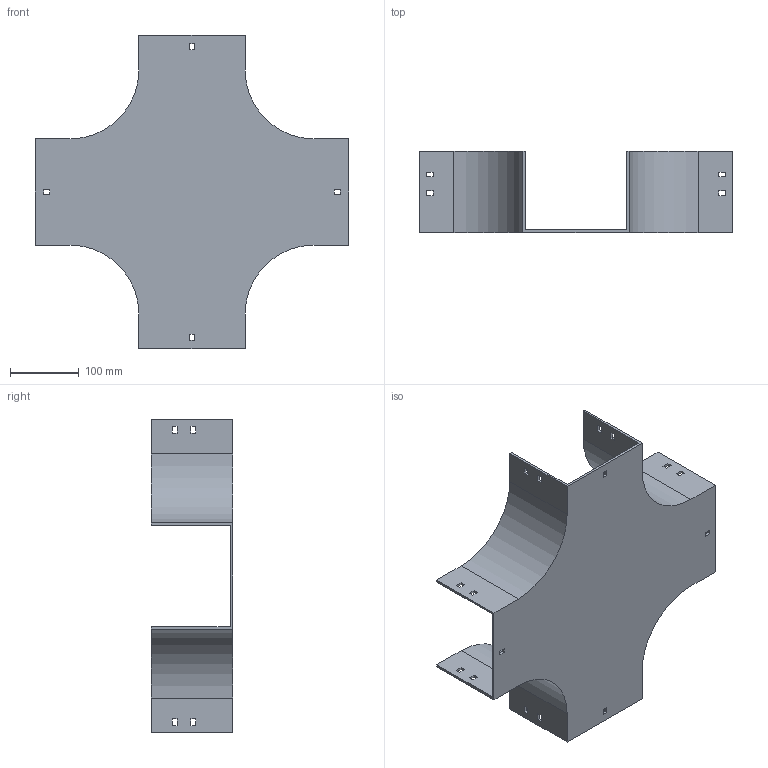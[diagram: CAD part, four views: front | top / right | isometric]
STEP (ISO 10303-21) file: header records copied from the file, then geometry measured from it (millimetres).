
FILE_DESCRIPTION (( 'STEP AP214' ), '1' );
FILE_NAME ('17B1J150.step', '2025-02-21T09:56:34', ( '' ), ( '' ), 'SwSTEP 2.0', 'SolidWorks 2023', '' );
FILE_SCHEMA (( 'AUTOMOTIVE_DESIGN' ));
Length unit declared in the file: millimetre
Products named in the file (1): 17B1J150
Bounding box: 454 x 117.5 x 454 mm (x, y, z)
Volume: 846397.6 mm3; surface area: 494940.9 mm2
Topology: 1 solids, 1 shells, 114 faces, 336 edges, 224 vertices
Faces by surface type: plane 106, cylinder 8
Entity records: 3839 total; most frequent: CARTESIAN_POINT 675, ORIENTED_EDGE 672, DIRECTION 582, EDGE_CURVE 336, LINE 320, VECTOR 320, VERTEX_POINT 224, EDGE_LOOP 154
